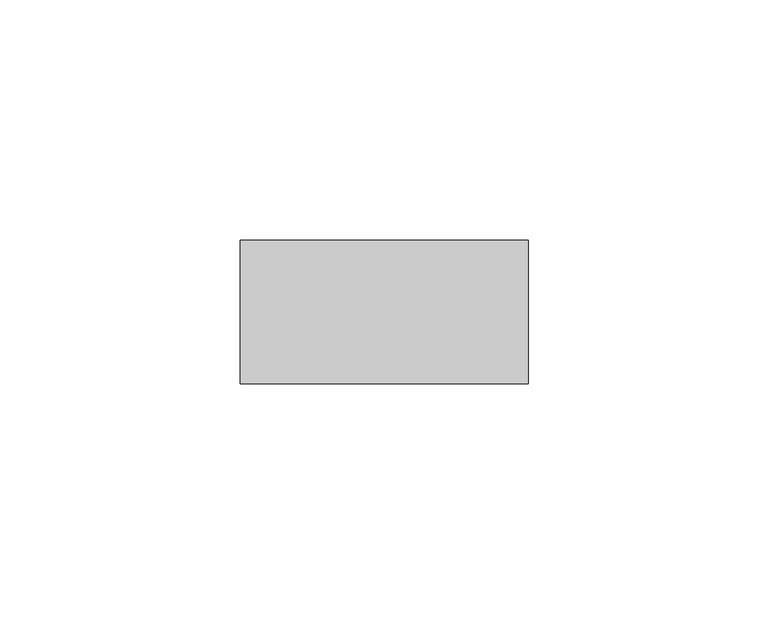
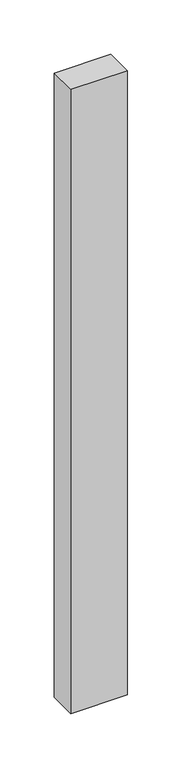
"""IFC4 building model written with IfcOpenShell, lengths in millimetres: member geometry, Прямоугольный импост : Квадрат 30 мм."""

from ifc_helpers import new_model, si_unit, frame, origin, place, context, project, spatial, polyline, outline, extrude, source, transform, mapped, element, save


def member_92592dca(model_context):
    return source(origin(), model_context, "Body", "SweptSolid", [
        extrude(outline(polyline([(30.0, 15.0), (30.0, -15.0), (-30.0, -15.0), (-30.0, 15.0), (30.0, 15.0)])), frame((0.0, 0.0, -700.0), z_axis=(0.0, 0.0, 1.0), x_axis=(1.0, 0.0, 0.0)), (0.0, 0.0, 1.0), 700.0),
    ])


if __name__ == "__main__":
    model = new_model("IFC4")
    model_context = context("Model", 3, world=origin())
    ifc_project = project(units=[si_unit("LENGTHUNIT", "METRE", prefix="MILLI")], contexts=[model_context])
    site = spatial("IfcSite", under=ifc_project)
    building = spatial("IfcBuilding", under=site)
    placement = place(None, origin())
    member_shape = member_92592dca(model_context)
    element("IfcMember", 1, ObjectType="Прямоугольный импост : Квадрат 30 мм", at=placement, inside=building, context=model_context, shape_type="MappedRepresentation", body=[
        mapped(member_shape, transform((0.0, 0.0, 0.0), x_axis=(1.0, 0.0, 0.0), y_axis=(0.0, 1.0, 0.0), z_axis=(0.0, 0.0, 1.0))),
    ])
    save(model, "model.ifc")
